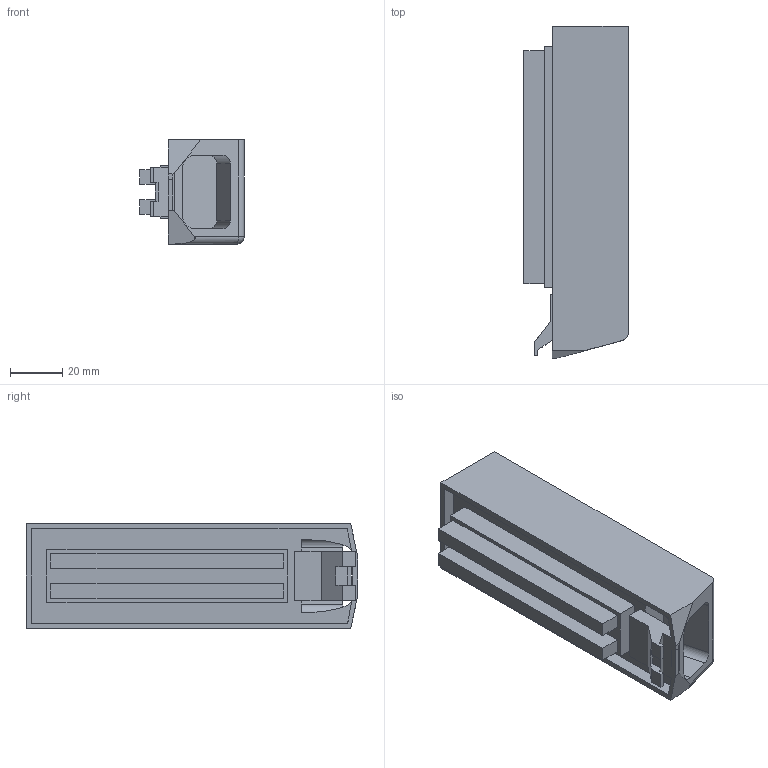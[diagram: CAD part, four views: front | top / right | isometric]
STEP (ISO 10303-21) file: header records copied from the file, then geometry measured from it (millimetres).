
FILE_DESCRIPTION(('STEP AP242'), '1');
FILE_NAME('膰鋋儆趌R500S', '', ('UNSPECIFIED'), ('UNSPECIFIED'), 'C3D Converter', 'C3D Toolkit', '');
FILE_SCHEMA(('AP242_MANAGED_MODEL_BASED_3D_ENGINEERING_MIM_LF { 1 0 10303 442 1 1 4 }'));
Length unit declared in the file: millimetre
Bounding box: 40 x 127 x 40 mm (x, y, z)
Volume: 137178.7 mm3; surface area: 27547.7 mm2
Topology: 1 solids, 1 shells, 68 faces, 192 edges, 125 vertices
Faces by surface type: plane 59, cylinder 8, bspline 1
Entity records: 2809 total; most frequent: CARTESIAN_POINT 489, ORIENTED_EDGE 382, DIRECTION 327, EDGE_CURVE 191, LINE 169, VECTOR 169, VERTEX_POINT 125, AXIS2_PLACEMENT_3D 79
